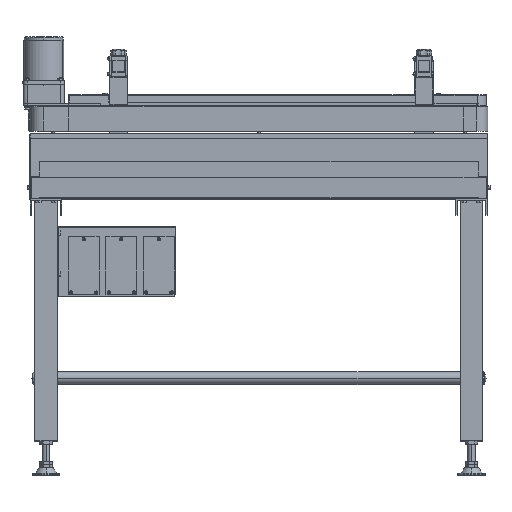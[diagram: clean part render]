
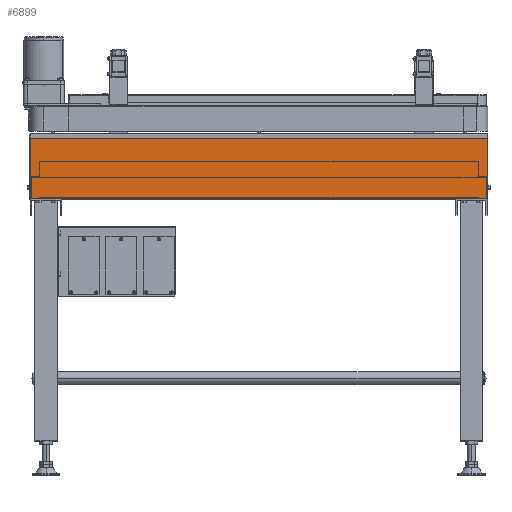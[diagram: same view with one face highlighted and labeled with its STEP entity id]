
A CAD part, top view. The second image highlights one B-rep face of the part: STEP entity #6899.
In plain terms, the highlighted planar face has unit normal (0, 0, 1).
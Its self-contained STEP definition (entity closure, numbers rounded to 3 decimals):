
#6899=ADVANCED_FACE('',(#41572),#41571,.F.);
#41571=PLANE('',#62465);
#41572=FACE_OUTER_BOUND('',#62466,.T.);
#62462=CARTESIAN_POINT('',(-10.,-150.,350.));
#62463=DIRECTION('',(0.,0.,-1.));
#62464=DIRECTION('',(0.,1.,0.));
#62465=AXIS2_PLACEMENT_3D('',#62462,#62463,#62464);
#62466=EDGE_LOOP('',(#79319,#79320,#79321,#79322));
#79319=ORIENTED_EDGE('',*,*,#87766,.F.);
#79320=ORIENTED_EDGE('',*,*,#87664,.T.);
#79321=ORIENTED_EDGE('',*,*,#87823,.T.);
#79322=ORIENTED_EDGE('',*,*,#87824,.F.);
#87664=EDGE_CURVE('',#142766,#142767,#142768,.T.);
#87766=EDGE_CURVE('',#142766,#143430,#143431,.T.);
#87823=EDGE_CURVE('',#142767,#143803,#143804,.T.);
#87824=EDGE_CURVE('',#143430,#143803,#143810,.T.);
#142766=VERTEX_POINT('',#177330);
#142767=VERTEX_POINT('',#177331);
#142768=LINE('',#177332,#177333);
#143430=VERTEX_POINT('',#177688);
#143431=LINE('',#177689,#177690);
#143803=VERTEX_POINT('',#177890);
#143804=LINE('',#177891,#177892);
#143810=LINE('',#177894,#177895);
#177330=CARTESIAN_POINT('',(1010.,-6.,350.));
#177331=CARTESIAN_POINT('',(0.,-6.,350.));
#177332=CARTESIAN_POINT('',(1010.,-6.,350.));
#177333=VECTOR('',#177334,1010.);
#177334=DIRECTION('',(-1.,0.,0.));
#177688=CARTESIAN_POINT('',(1010.,-140.,350.));
#177689=CARTESIAN_POINT('',(1010.,-6.,350.));
#177690=VECTOR('',#177691,134.);
#177691=DIRECTION('',(0.,-1.,0.));
#177890=CARTESIAN_POINT('',(0.,-140.,350.));
#177891=CARTESIAN_POINT('',(0.,-6.,350.));
#177892=VECTOR('',#177893,134.);
#177893=DIRECTION('',(0.,-1.,0.));
#177894=CARTESIAN_POINT('',(1010.,-140.,350.));
#177895=VECTOR('',#177896,1010.);
#177896=DIRECTION('',(-1.,0.,0.));
